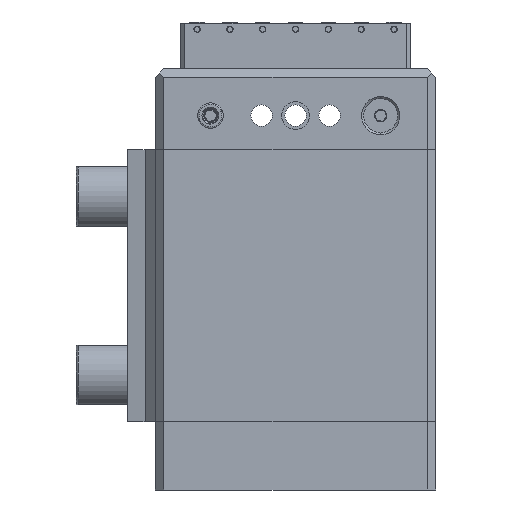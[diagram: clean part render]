
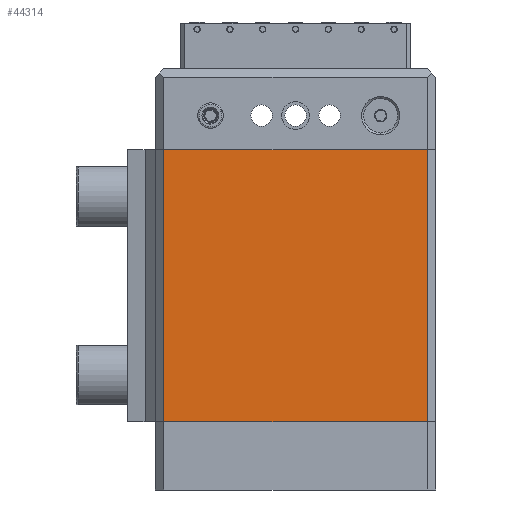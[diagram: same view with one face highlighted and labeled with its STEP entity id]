
A CAD part, left-side view. The second image highlights one B-rep face of the part: STEP entity #44314.
In plain terms, the highlighted planar face has unit normal (-1, 0, 0).
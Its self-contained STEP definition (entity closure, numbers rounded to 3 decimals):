
#253 = PLANE ( 'NONE',  #6795 ) ;
#298 = DIRECTION ( 'NONE',  ( 0., 0., 1. ) ) ;
#852 = DIRECTION ( 'NONE',  ( 0., 0., -1. ) ) ;
#2176 = VECTOR ( 'NONE', #852, 1000. ) ;
#4418 = CARTESIAN_POINT ( 'NONE',  ( -29., 31., 64. ) ) ;
#6795 = AXIS2_PLACEMENT_3D ( 'NONE', #36134, #28498, #36670 ) ;
#7180 = CARTESIAN_POINT ( 'NONE',  ( -29., 31., 64. ) ) ;
#8018 = ORIENTED_EDGE ( 'NONE', *, *, #22813, .T. ) ;
#10710 = VERTEX_POINT ( 'NONE', #7180 ) ;
#14507 = VECTOR ( 'NONE', #298, 1000. ) ;
#14906 = FACE_OUTER_BOUND ( 'NONE', #43266, .T. ) ;
#17320 = LINE ( 'NONE', #45689, #24212 ) ;
#19524 = VERTEX_POINT ( 'NONE', #26737 ) ;
#22396 = ORIENTED_EDGE ( 'NONE', *, *, #51245, .T. ) ;
#22813 = EDGE_CURVE ( 'NONE', #19524, #22907, #17320, .T. ) ;
#22821 = CARTESIAN_POINT ( 'NONE',  ( -29., -31., 0. ) ) ;
#22907 = VERTEX_POINT ( 'NONE', #22821 ) ;
#24212 = VECTOR ( 'NONE', #30238, 1000. ) ;
#24269 = VECTOR ( 'NONE', #25339, 1000. ) ;
#25339 = DIRECTION ( 'NONE',  ( 0., -1., 0. ) ) ;
#26737 = CARTESIAN_POINT ( 'NONE',  ( -29., 31., 0. ) ) ;
#28498 = DIRECTION ( 'NONE',  ( 1., 0., 0. ) ) ;
#28545 = CARTESIAN_POINT ( 'NONE',  ( -29., -31., 64. ) ) ;
#30238 = DIRECTION ( 'NONE',  ( 0., -1., 0. ) ) ;
#35021 = LINE ( 'NONE', #45197, #24269 ) ;
#36134 = CARTESIAN_POINT ( 'NONE',  ( -29., -33., 64. ) ) ;
#36670 = DIRECTION ( 'NONE',  ( 0., 1., 0. ) ) ;
#39574 = ORIENTED_EDGE ( 'NONE', *, *, #51727, .F. ) ;
#40443 = LINE ( 'NONE', #28545, #14507 ) ;
#41062 = ORIENTED_EDGE ( 'NONE', *, *, #49573, .T. ) ;
#43266 = EDGE_LOOP ( 'NONE', ( #8018, #41062, #39574, #22396 ) ) ;
#44314 = ADVANCED_FACE ( 'NONE', ( #14906 ), #253, .F. ) ;
#45197 = CARTESIAN_POINT ( 'NONE',  ( -29., -33., 64. ) ) ;
#45689 = CARTESIAN_POINT ( 'NONE',  ( -29., -33., 0. ) ) ;
#46485 = LINE ( 'NONE', #4418, #2176 ) ;
#46904 = VERTEX_POINT ( 'NONE', #50233 ) ;
#49573 = EDGE_CURVE ( 'NONE', #22907, #46904, #40443, .T. ) ;
#50233 = CARTESIAN_POINT ( 'NONE',  ( -29., -31., 64. ) ) ;
#51245 = EDGE_CURVE ( 'NONE', #10710, #19524, #46485, .T. ) ;
#51727 = EDGE_CURVE ( 'NONE', #10710, #46904, #35021, .T. ) ;
